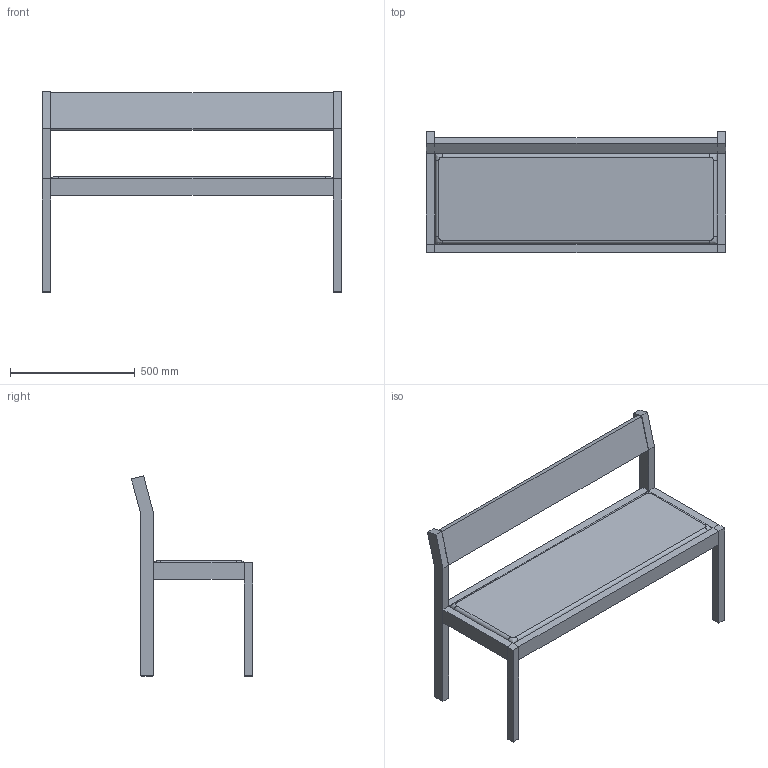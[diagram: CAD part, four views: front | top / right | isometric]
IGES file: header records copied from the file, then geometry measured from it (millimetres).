
Global section: file name: C:\Users\Timo Mikkonen\Desktop\Nikari 3d. tiedostot rfa\STOOLS & BENCHES\iges\Seminar KVI3 bench.igs; native system: Rhinoceros ( Sep  8 2025 ); preprocessor: Trout Lake IGES 012 Sep  8 2025; date: 250916.112353; units: millimetre
Bounding box: 1200 x 486.09 x 804.74 mm (x, y, z)
Surface area: 3987548.1 mm2 (no closed solid volume)
Topology: 0 solids, 0 shells, 108 faces, 1000 edges, 1000 vertices
Faces by surface type: bspline 108
